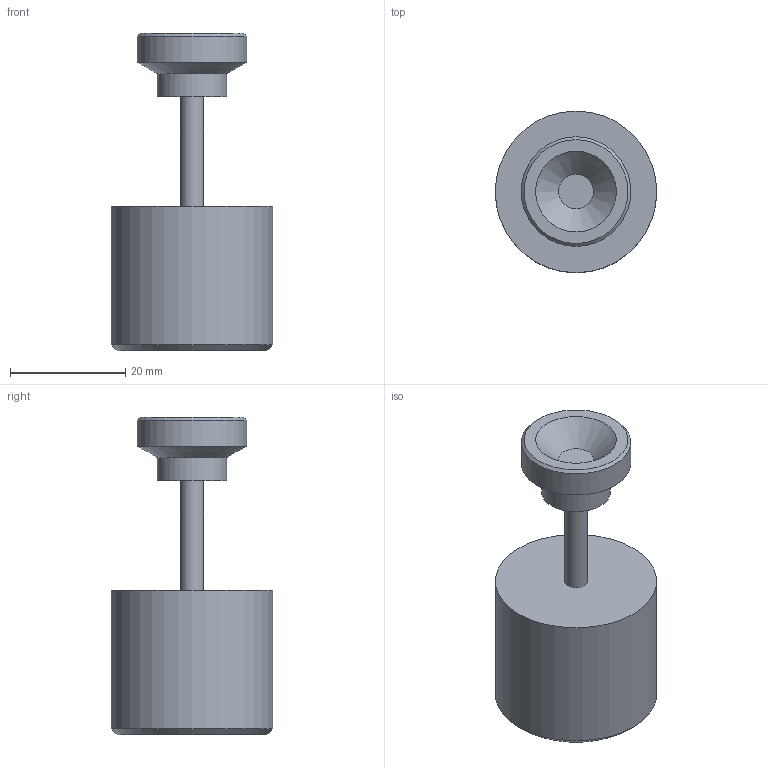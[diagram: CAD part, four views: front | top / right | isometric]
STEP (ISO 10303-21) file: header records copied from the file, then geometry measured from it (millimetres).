
FILE_DESCRIPTION(('Open CASCADE Model'),'2;1');
FILE_NAME('Open CASCADE Shape Model','2026-09-23T04:44:17',('Author'),( 'Open CASCADE'),'Open CASCADE STEP processor 7.9','Open CASCADE 7.9' ,'Unknown');
FILE_SCHEMA(('AUTOMOTIVE_DESIGN { 1 0 10303 214 1 1 1 1 }'));
Length unit declared in the file: millimetre
Products named in the file (1): Open CASCADE STEP translator 7.9 3
Bounding box: 28 x 28 x 55 mm (x, y, z)
Volume: 17505.2 mm3; surface area: 4667.8 mm2
Topology: 1 solids, 1 shells, 13 faces, 20 edges, 12 vertices
Faces by surface type: plane 5, cylinder 4, cone 4
Full cylindrical faces by diameter (mm): 4 x1, 12 x1, 19 x1, 28 x1
Entity records: 565 total; most frequent: DIRECTION 97, CARTESIAN_POINT 94, ORIENTED_EDGE 40, PCURVE 40, DEFINITIONAL_REPRESENTATION 40, LINE 38, VECTOR 38, AXIS2_PLACEMENT_3D 26
